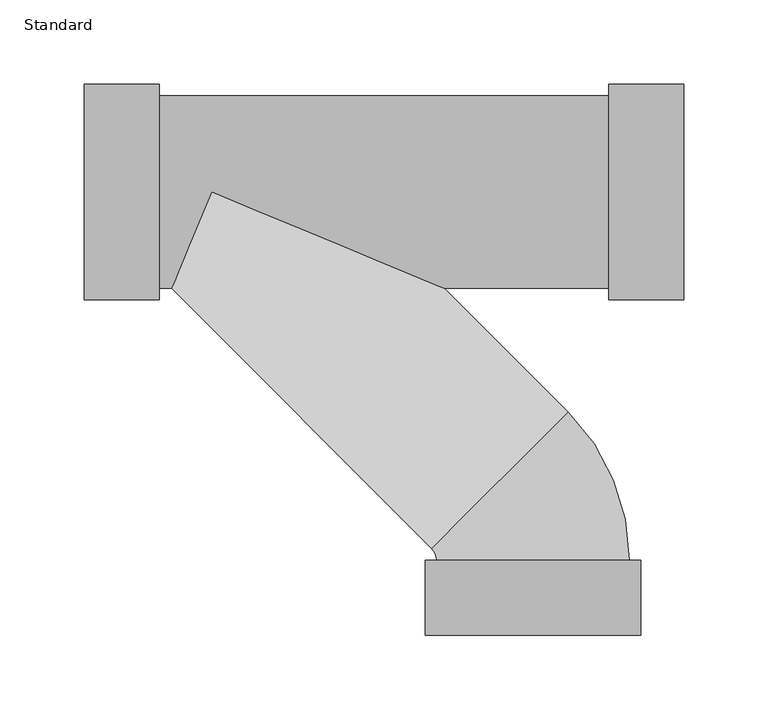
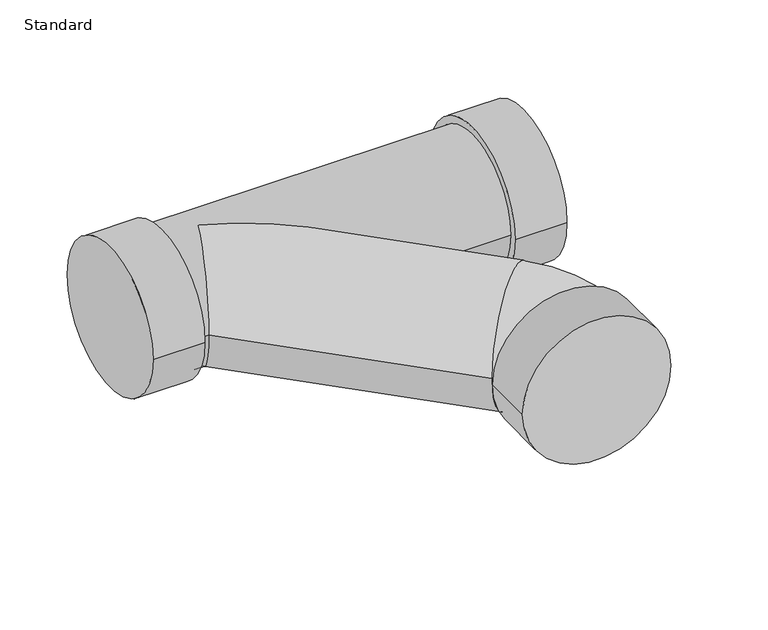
"""IFC4 building model written with IfcOpenShell, lengths in millimetres: pipe fitting geometry, GES Wye Combination with 8th Bend - PVC - Sch 40 - DWV : Standard."""

import ifcopenshell
import ifcopenshell.guid

model = None  # the IFC model being written
_history = None  # IfcOwnerHistory: only IFC2X3 demands one
_inside = {}  # id of a spatial element -> (the spatial element, [elements in it])
_under = {}  # id of a project, library or spatial element -> (it, [spatial elements below it])
_declared = {}  # id of a project -> (the project, [libraries it declares])
_typed = {}  # id of a type object -> (the type object, [elements of that type])
_made_of = {}  # id of a material, layer set ... -> (it, [elements and type objects made of it])


def new_model(schema):
    """Start an empty IFC model of exactly this schema.

    Asked for "IFC4X3", IfcOpenShell would pick the latest addendum, in which some entities
    have other attributes; the version numbers below select the first issue.
    IFC2X3 requires an IfcOwnerHistory on every rooted entity: one is made here for all.
    """
    global model, _history
    if schema == "IFC4X3":
        model = ifcopenshell.file(schema_version=(4, 3, 0, 0))
    else:
        model = ifcopenshell.file(schema=schema)
    _inside.clear()
    _under.clear()
    _declared.clear()
    _typed.clear()
    _made_of.clear()
    _history = None
    if model.schema == "IFC2X3":
        org = make("IfcOrganization", Name="unknown")
        user = make(
            "IfcPersonAndOrganization",
            ThePerson=make("IfcPerson", FamilyName="unknown"),
            TheOrganization=org,
        )
        app = make(
            "IfcApplication",
            ApplicationDeveloper=org,
            Version="unknown",
            ApplicationFullName="unknown",
            ApplicationIdentifier="unknown",
        )
        _history = make(
            "IfcOwnerHistory",
            OwningUser=user,
            OwningApplication=app,
            ChangeAction="ADDED",
            CreationDate=0,
        )
    return model


def make(cls, **values):
    """One entity of the class cls with the attributes given. An attribute that is None is left unset."""
    return model.create_entity(
        cls, **{name: value for name, value in values.items() if value is not None}
    )


def rooted(cls, **values):
    """An entity with a GlobalId (a new one), such as an element, a storey or a relation."""
    return make(cls, GlobalId=ifcopenshell.guid.new(), OwnerHistory=_history, **values)


def si_unit(unit_type, name, prefix=None):
    """IfcSIUnit, for example si_unit("LENGTHUNIT", "METRE", prefix="MILLI")."""
    return make("IfcSIUnit", UnitType=unit_type, Prefix=prefix, Name=name)


def assignment(units):
    """IfcUnitAssignment: the units of a project."""
    return None if units is None else make("IfcUnitAssignment", Units=units)


def point(xyz):
    """IfcCartesianPoint."""
    return None if xyz is None else make("IfcCartesianPoint", Coordinates=xyz)


def direction(xyz):
    """IfcDirection."""
    return None if xyz is None else make("IfcDirection", DirectionRatios=xyz)


def frame(location, z_axis=None, x_axis=None):
    """IfcAxis2Placement3D, a coordinate frame: its origin and axes. An axis left out is left unset."""
    return make(
        "IfcAxis2Placement3D",
        Location=point(location),
        Axis=direction(z_axis),
        RefDirection=direction(x_axis),
    )


def origin():
    """The frame at (0, 0, 0) with its axes left unset."""
    return frame((0.0, 0.0, 0.0))


def place(relative_to, where):
    """IfcLocalPlacement: puts the frame where relative to a parent placement (None: the world)."""
    return make(
        "IfcLocalPlacement", PlacementRelTo=relative_to, RelativePlacement=where
    )


def context(
    kind, dimensions, precision=None, world=None, true_north=None, identifier=None
):
    """IfcGeometricRepresentationContext, for example the 3D "Model" context."""
    return make(
        "IfcGeometricRepresentationContext",
        ContextIdentifier=identifier,
        ContextType=kind,
        CoordinateSpaceDimension=dimensions,
        Precision=precision,
        WorldCoordinateSystem=world,
        TrueNorth=true_north,
    )


def project(units=None, contexts=None):
    """IfcProject with its units and contexts."""
    return rooted(
        "IfcProject",
        Name="project",
        RepresentationContexts=contexts,
        UnitsInContext=assignment(units),
    )


def spatial(cls, under=None, at=None, **own):
    """A site, building, storey or space (cls), placed at a placement, below another one or the project."""
    s = rooted(cls, ObjectPlacement=at, **own)
    if under is not None:
        _under.setdefault(under.id(), (under, []))[1].append(s)
    return s


def circle_curve(where, radius):
    """IfcCircle in the frame where."""
    return make("IfcCircle", Position=where, Radius=radius)


def ellipse_curve(where, semi_axis1, semi_axis2):
    """IfcEllipse in the frame where."""
    return make(
        "IfcEllipse", Position=where, SemiAxis1=semi_axis1, SemiAxis2=semi_axis2
    )


def trimmed(basis, trim1, trim2, sense, master):
    """IfcTrimmedCurve: the piece of a basis curve between two trims."""
    return make(
        "IfcTrimmedCurve",
        BasisCurve=basis,
        Trim1=trim1,
        Trim2=trim2,
        SenseAgreement=sense,
        MasterRepresentation=master,
    )


def shape(context_of_items, identifier, shape_type, items):
    """IfcShapeRepresentation: the items that make up one representation, for example the "Body"."""
    return make(
        "IfcShapeRepresentation",
        ContextOfItems=context_of_items,
        RepresentationIdentifier=identifier,
        RepresentationType=shape_type,
        Items=items,
    )


def source(mapping_origin, context_of_items, identifier, shape_type, items):
    """IfcRepresentationMap: a shape defined once, which mapped items show again and again."""
    return make(
        "IfcRepresentationMap",
        MappingOrigin=mapping_origin,
        MappedRepresentation=shape(context_of_items, identifier, shape_type, items),
    )


def transform(
    local_origin,
    x_axis=None,
    y_axis=None,
    z_axis=None,
    scale=None,
    scale2=None,
    scale3=None,
    uniform=True,
):
    """IfcCartesianTransformationOperator3D, or its non-uniform kind. x_axis, y_axis, z_axis: its Axis1, 2, 3."""
    if uniform:
        return make(
            "IfcCartesianTransformationOperator3D",
            Axis1=direction(x_axis),
            Axis2=direction(y_axis),
            LocalOrigin=point(local_origin),
            Scale=scale,
            Axis3=direction(z_axis),
        )
    return make(
        "IfcCartesianTransformationOperator3DnonUniform",
        Axis1=direction(x_axis),
        Axis2=direction(y_axis),
        LocalOrigin=point(local_origin),
        Scale=scale,
        Axis3=direction(z_axis),
        Scale2=scale2,
        Scale3=scale3,
    )


def mapped(mapping_source, mapping_target):
    """IfcMappedItem: shows the shape of a source again, moved by a transform."""
    return make(
        "IfcMappedItem", MappingSource=mapping_source, MappingTarget=mapping_target
    )


def made_of(thing, what):
    """Note that an element or type object is made of a material, layer set ...; save() writes the relation."""
    if what is not None:
        _made_of.setdefault(what.id(), (what, []))[1].append(thing)
    return thing


def element(
    cls,
    number,
    at=None,
    inside=None,
    cuts=None,
    type_object=None,
    material=None,
    context=None,
    identifier="Body",
    shape_type=None,
    held_by="IfcProductDefinitionShape",
    body=None,
    shapes=None,
    **own,
):
    """One element of the class cls, such as IfcWall. Its Tag is "e" and its number.

    at: its placement. inside: the storey or other place that contains it. cuts: it is an
    opening in that element (IfcRelVoidsElement). A single representation is given by context,
    identifier, shape_type and body (its items); several are given by shapes. held_by: the class
    of the entity that holds the representations. save() writes the other relations.
    """
    e = rooted(cls, Tag="e%d" % number, ObjectPlacement=at, **own)
    if body is not None:
        shapes = [shape(context, identifier, shape_type, body)]
    if shapes is not None:
        e.Representation = make(held_by, Representations=shapes)
    if inside is not None:
        _inside.setdefault(inside.id(), (inside, []))[1].append(e)
    if cuts is not None:
        rooted(
            "IfcRelVoidsElement", RelatingBuildingElement=cuts, RelatedOpeningElement=e
        )
    if type_object is not None:
        _typed.setdefault(type_object.id(), (type_object, []))[1].append(e)
    return made_of(e, material)


def aggregate(whole, parts):
    """IfcRelAggregates: a whole, such as a stair, and the parts it consists of."""
    return rooted("IfcRelAggregates", RelatingObject=whole, RelatedObjects=parts)


def save(model, path):
    """Write the relations noted so far, then the file.

    IfcRelAggregates (storeys below a building ...), IfcRelContainedInSpatialStructure (elements
    in a storey), IfcRelDefinesByType, IfcRelAssociatesMaterial and IfcRelDeclares: one each for
    every whole, place, type object, material and project.
    """
    for whole, parts in _under.values():
        aggregate(whole, parts)
    for where, things in _inside.values():
        rooted(
            "IfcRelContainedInSpatialStructure",
            RelatedElements=things,
            RelatingStructure=where,
        )
    for kind, things in _typed.values():
        rooted("IfcRelDefinesByType", RelatedObjects=things, RelatingType=kind)
    for what, things in _made_of.values():
        rooted("IfcRelAssociatesMaterial", RelatedObjects=things, RelatingMaterial=what)
    for by, libraries in _declared.values():
        rooted("IfcRelDeclares", RelatingContext=by, RelatedDefinitions=libraries)
    model.write(path)


def plane_surface(at):
    """IfcPlane: the flat surface through the origin of the frame at, square to its z axis."""
    return make("IfcPlane", Position=at)


def cylinder_surface(at, radius):
    """IfcCylindricalSurface: all points at the distance radius from the z axis of the frame at."""
    return make("IfcCylindricalSurface", Position=at, Radius=radius)


def revolved_surface(curve, axis_point, axis_direction):
    """IfcSurfaceOfRevolution: the curve turned about the line through axis_point along axis_direction."""
    return make(
        "IfcSurfaceOfRevolution",
        SweptCurve=make("IfcArbitraryOpenProfileDef", ProfileType="CURVE", Curve=curve),
        AxisPosition=make("IfcAxis1Placement", Location=point(axis_point), Axis=direction(axis_direction)),
    )


def advanced_brep(points, edges, surfaces, faces):
    """IfcAdvancedBrep: a solid bounded by faces that lie on surfaces and meet in shared edges.

    An edge is (start, end): straight between two places in points (the first is 0);
    or (start, end, curve); or (start, end, curve, False) where it runs against its curve.
    A face is (place in surfaces, loops), or (place, loops, False) where it looks against
    its surface's normal. A loop lists edges by number (the first is 1), with a minus sign
    where the edge is run from its end to its start. The first loop is the outer one.
    """
    corners = [point(p) for p in points]
    vertices = [make("IfcVertexPoint", VertexGeometry=c) for c in corners]
    made = []
    for start, end, *more in edges:
        made.append(
            make(
                "IfcEdgeCurve",
                EdgeStart=vertices[start],
                EdgeEnd=vertices[end],
                EdgeGeometry=more[0] if more else make("IfcPolyline", Points=[corners[start], corners[end]]),
                SameSense=more[1] if len(more) > 1 else True,
            )
        )
    hull = []
    for where, loops, *sense in faces:
        bounds = []
        for j, loop in enumerate(loops):
            ring = [make("IfcOrientedEdge", EdgeElement=made[abs(k) - 1], Orientation=k > 0) for k in loop]
            bounds.append(
                make(
                    "IfcFaceOuterBound" if j == 0 else "IfcFaceBound",
                    Bound=make("IfcEdgeLoop", EdgeList=ring),
                    Orientation=True,
                )
            )
        hull.append(make("IfcAdvancedFace", Bounds=bounds, FaceSurface=surfaces[where], SameSense=sense[0] if sense else True))
    return make("IfcAdvancedBrep", Outer=make("IfcClosedShell", CfsFaces=hull))


def standard_1757d073(model_context):
    return source(origin(), model_context, "Body", "AdvancedBrep", [
        advanced_brep(
        [(-265.9470369, -63.754, 0.0), (-265.9470369, 63.754, 0.0), (-221.4970369, -63.754, 0.0), (-221.4970369, 63.754, 0.0), (-221.4970369, -57.15, 0.0), (-221.4970369, 57.15, 0.0), (44.7965631, 57.15, 0.0), (-214.260883, -57.15, 0.0), (-190.5885779, 0.0, 57.15), (-52.6162728, -57.15, 0.0), (44.7965631, -57.15, 0.0), (-190.5885779, 0.0, -57.15), (44.7965631, -63.754, 0.0), (44.7965631, 63.754, 0.0), (89.2465631, -63.754, 0.0), (89.2465631, 63.754, 0.0), (-60.0486389, -211.3622441, 0.0), (-57.1844362, -218.278584, 0.0), (57.1155624, -218.296616, 0.0), (20.7736662, -130.539939, 0.0), (-63.7884361, -218.2775422, 0.0), (63.7195623, -218.2976578, 0.0), (-63.7954485, -262.7275417, 0.0), (63.7125499, -262.7476572, 0.0)],
        [
            (0, 1, circle_curve(frame((-265.9470369, 0.0, 0.0), z_axis=(-1.0, 0.0, 0.0), x_axis=(0.0, 1.0, 0.0)), 63.754)),
            (1, 0, circle_curve(frame((-265.9470369, 0.0, 0.0), z_axis=(-1.0, 0.0, 0.0), x_axis=(0.0, 1.0, 0.0)), 63.754)),
            (2, 3, circle_curve(frame((-221.4970369, 0.0, 0.0), z_axis=(1.0, 0.0, 0.0), x_axis=(0.0, 1.0, 0.0)), 63.754)),
            (3, 2, circle_curve(frame((-221.4970369, 0.0, 0.0), z_axis=(1.0, 0.0, 0.0), x_axis=(0.0, 1.0, 0.0)), 63.754)),
            (4, 5, circle_curve(frame((-221.4970369, 0.0, 0.0), z_axis=(-1.0, 0.0, 0.0), x_axis=(0.0, 1.0, 0.0)), 57.15)),
            (5, 4, circle_curve(frame((-221.4970369, 0.0, 0.0), z_axis=(-1.0, 0.0, 0.0), x_axis=(0.0, 1.0, 0.0)), 57.15)),
            (0, 2),
            (3, 1),
            (6, 5),
            (4, 7),
            (7, 8, ellipse_curve(frame((-190.5885779, 0.0, 0.0), z_axis=(-0.9238795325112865, 0.38268343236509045, 0.0), x_axis=(-0.38268343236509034, -0.9238795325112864, 0.0)), 61.8587142, 57.15)),
            (8, 9, ellipse_curve(frame((-190.5885779, 0.0, 0.0), z_axis=(0.38268343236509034, 0.9238795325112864, 0.0), x_axis=(-0.9238795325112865, 0.38268343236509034, 0.0)), 149.3401469, 57.15)),
            (9, 10),
            (10, 6, circle_curve(frame((44.7965631, 0.0, 0.0), z_axis=(-1.0, 0.0, 0.0), x_axis=(0.0, 1.0, 0.0)), 57.15)),
            (6, 10, circle_curve(frame((44.7965631, 0.0, 0.0), z_axis=(-1.0, 0.0, 0.0), x_axis=(0.0, 1.0, 0.0)), 57.15)),
            (9, 11, ellipse_curve(frame((-190.5885779, 0.0, 0.0), z_axis=(0.38268343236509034, 0.9238795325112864, 0.0), x_axis=(-0.9238795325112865, 0.38268343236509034, 0.0)), 149.3401469, 57.15)),
            (11, 7, ellipse_curve(frame((-190.5885779, 0.0, 0.0), z_axis=(-0.9238795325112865, 0.38268343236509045, 0.0), x_axis=(-0.38268343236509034, -0.9238795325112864, 0.0)), 61.8587142, 57.15)),
            (12, 13, circle_curve(frame((44.7965631, 0.0, 0.0), z_axis=(-1.0, 0.0, 0.0), x_axis=(0.0, 1.0, 0.0)), 63.754)),
            (13, 12, circle_curve(frame((44.7965631, 0.0, 0.0), z_axis=(-1.0, 0.0, 0.0), x_axis=(0.0, 1.0, 0.0)), 63.754)),
            (14, 15, circle_curve(frame((89.2465631, 0.0, 0.0), z_axis=(1.0, 0.0, 0.0), x_axis=(0.0, 1.0, 0.0)), 63.754)),
            (15, 14, circle_curve(frame((89.2465631, 0.0, 0.0), z_axis=(1.0, 0.0, 0.0), x_axis=(0.0, 1.0, 0.0)), 63.754)),
            (12, 14),
            (15, 13),
            (16, 17, circle_curve(frame((-66.9634361, -218.2770413, 0.0), z_axis=(0.0, 0.0, -1.0), x_axis=(0.9999999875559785, -0.00015775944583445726, 0.0)), 9.779)),
            (17, 18, circle_curve(frame((-0.0344369, -218.2876, 0.0), z_axis=(0.00015775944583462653, 0.9999999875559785, 0.0), x_axis=(-0.9999999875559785, 0.00015775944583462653, 0.0)), 57.15)),
            (18, 19, circle_curve(frame((-66.9634361, -218.2770413, 0.0), z_axis=(0.0, 0.0, 1.0), x_axis=(0.9999999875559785, -0.00015775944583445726, 0.0)), 124.079)),
            (19, 16, circle_curve(frame((-19.6374863, -170.9510916, 0.0), z_axis=(0.7071067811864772, -0.7071067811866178, 0.0), x_axis=(-0.7071067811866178, -0.7071067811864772, 0.0)), 57.15)),
            (16, 19, circle_curve(frame((-19.6374863, -170.9510916, 0.0), z_axis=(0.7071067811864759, -0.7071067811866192, 0.0), x_axis=(-0.7071067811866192, -0.7071067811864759, 0.0)), 57.15)),
            (18, 17, circle_curve(frame((-0.0344369, -218.2876, 0.0), z_axis=(0.00015775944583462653, 0.9999999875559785, 0.0), x_axis=(-0.9999999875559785, 0.00015775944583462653, 0.0)), 57.15)),
            (19, 9),
            (7, 16),
            (20, 21, circle_curve(frame((-0.0344369, -218.2876, 0.0), z_axis=(0.00015775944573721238, 0.9999999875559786, 0.0), x_axis=(0.9999999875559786, -0.00015775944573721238, 0.0)), 63.754)),
            (21, 20, circle_curve(frame((-0.0344369, -218.2876, 0.0), z_axis=(0.00015775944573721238, 0.9999999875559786, 0.0), x_axis=(0.9999999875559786, -0.00015775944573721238, 0.0)), 63.754)),
            (22, 23, circle_curve(frame((-0.0414493, -262.7375994, 0.0), z_axis=(-0.00015775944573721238, -0.9999999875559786, 0.0), x_axis=(0.9999999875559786, -0.00015775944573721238, 0.0)), 63.754)),
            (23, 22, circle_curve(frame((-0.0414493, -262.7375994, 0.0), z_axis=(-0.00015775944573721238, -0.9999999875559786, 0.0), x_axis=(0.9999999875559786, -0.00015775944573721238, 0.0)), 63.754)),
            (20, 22),
            (23, 21),
        ],
        [
            plane_surface(frame((-265.9470369, 0.0, 0.0), z_axis=(-1.0, 0.0, 0.0), x_axis=(0.0, 0.0, 1.0))),
            plane_surface(frame((-221.4970369, 0.0, 0.0), z_axis=(1.0, 0.0, 0.0), x_axis=(0.0, 0.0, 1.0))),
            cylinder_surface(frame((-265.9470369, 0.0, 0.0), z_axis=(-1.0, 0.0, 0.0), x_axis=(0.0, 1.0, 0.0)), 63.754),
            cylinder_surface(frame((-221.4970369, 0.0, 0.0), z_axis=(-1.0, 0.0, 0.0), x_axis=(0.0, 1.0, 0.0)), 57.15),
            plane_surface(frame((44.7965631, 0.0, 0.0), z_axis=(-1.0, 0.0, 0.0), x_axis=(0.0, 0.0, 1.0))),
            plane_surface(frame((89.2465631, 0.0, 0.0), z_axis=(1.0, 0.0, 0.0), x_axis=(0.0, 0.0, 1.0))),
            cylinder_surface(frame((44.7965631, 0.0, 0.0), z_axis=(-1.0, 0.0, 0.0), x_axis=(0.0, 1.0, 0.0)), 63.754),
            revolved_surface(trimmed(ellipse_curve(frame((-0.0344369, -218.2876, 0.0), z_axis=(-0.00015775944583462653, -0.9999999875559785, 0.0), x_axis=(-0.9999999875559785, 0.00015775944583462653, 0.0)), 57.15, 57.15), [point((57.1155624, -218.296616, 0.0))], [point((-57.1844362, -218.278584, 0.0))], True, "CARTESIAN"), (-66.9634361, -218.2770413, 0.0), (0.0, 0.0, 1.0)),
            revolved_surface(trimmed(ellipse_curve(frame((-0.0344369, -218.2876, 0.0), z_axis=(-0.00015775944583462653, -0.9999999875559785, 0.0), x_axis=(-0.9999999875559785, 0.00015775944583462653, 0.0)), 57.15, 57.15), [point((-57.1844362, -218.278584, 0.0))], [point((57.1155624, -218.296616, 0.0))], True, "CARTESIAN"), (-66.9634361, -218.2770413, 0.0), (0.0, 0.0, 1.0)),
            cylinder_surface(frame((-19.6374863, -170.9510916, 0.0), z_axis=(0.7071067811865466, -0.7071067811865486, 0.0), x_axis=(-0.7071067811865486, -0.7071067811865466, 0.0)), 57.15),
            plane_surface(frame((-0.0344369, -218.2876, 0.0), z_axis=(0.00015775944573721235, 0.9999999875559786, 0.0), x_axis=(0.0, 0.0, 1.0))),
            plane_surface(frame((-0.0414493, -262.7375994, 0.0), z_axis=(-0.00015775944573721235, -0.9999999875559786, 0.0), x_axis=(0.0, 0.0, 1.0))),
            cylinder_surface(frame((-0.0344369, -218.2876, 0.0), z_axis=(0.00015775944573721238, 0.9999999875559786, 0.0), x_axis=(0.9999999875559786, -0.00015775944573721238, 0.0)), 63.754),
        ],
        [
            (0, [[1, 2]]),
            (1, [[3, 4], [5, 6]]),
            (2, [[-1, 7, -4, 8]]),
            (2, [[-2, -8, -3, -7]]),
            (3, [[9, -5, 10, 11, 12, 13, 14]]),
            (3, [[-9, 15, -13, 16, 17, -10, -6]]),
            (4, [[18, 19], [-14, -15]]),
            (5, [[20, 21]]),
            (6, [[-18, 22, -21, 23]]),
            (6, [[-19, -23, -20, -22]]),
            (7, [[24, 25, 26, 27]]),
            (8, [[-24, 28, -26, 29]]),
            (9, [[-27, 30, -12, -11, 31]]),
            (9, [[-28, -31, -17, -16, -30]]),
            (10, [[32, 33], [-25, -29]]),
            (11, [[34, 35]]),
            (12, [[-32, 36, -35, 37]]),
            (12, [[-33, -37, -34, -36]]),
        ],
    ),
    ])


if __name__ == "__main__":
    model = new_model("IFC4")
    model_context = context("Model", 3, world=origin())
    ifc_project = project(units=[si_unit("LENGTHUNIT", "METRE", prefix="MILLI")], contexts=[model_context])
    site = spatial("IfcSite", under=ifc_project)
    building = spatial("IfcBuilding", under=site)
    placement = place(None, origin())
    standard_shape = standard_1757d073(model_context)
    element("IfcPipeFitting", 1, ObjectType="GES Wye Combination with 8th Bend - PVC - Sch 40 - DWV : Standard", at=placement, inside=building, context=model_context, shape_type="MappedRepresentation", body=[
        mapped(standard_shape, transform((0.0, 0.0, 0.0), x_axis=(1.0, 0.0, 0.0), y_axis=(0.0, 1.0, 0.0), z_axis=(0.0, 0.0, 1.0))),
    ])
    save(model, "model.ifc")
